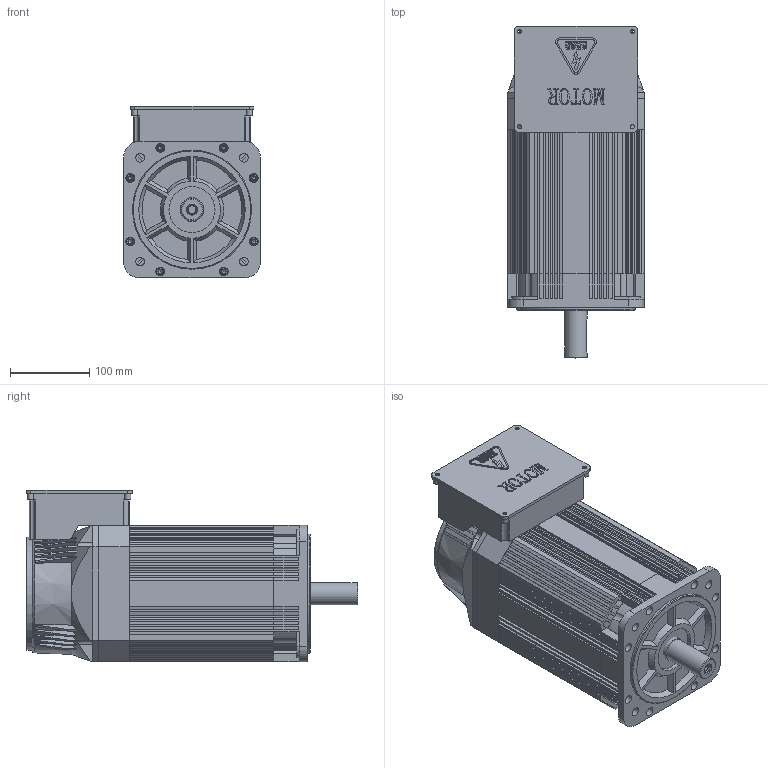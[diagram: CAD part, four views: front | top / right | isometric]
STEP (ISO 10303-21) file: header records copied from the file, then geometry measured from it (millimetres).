
FILE_DESCRIPTION(/* description */ (''),/* implementation_level */ '2;1');
FILE_NAME(/* name */ '172ZJY-4-4-15-A(法兰安装).stp',/* time_stamp */ '2024-11-15T13:15:12+08:00',/* author */ (''),/* organization */ (''),/* preprocessor_version */ 'ST-DEVELOPER v18.1',/* originating_system */ 'SIEMENS PLM Software NX 2000',/* authorisation */ '');
FILE_SCHEMA (('AUTOMOTIVE_DESIGN { 1 0 10303 214 3 1 1 1 }'));
Products named in the file (1): 172ZJY-4-4-15_法兰安装__stp
Bounding box: 172 x 418 x 216.5 mm (x, y, z)
Volume: 8007114.3 mm3; surface area: 833565.2 mm2
Topology: 15 solids, 15 shells, 2287 faces, 6264 edges, 4123 vertices
Faces by surface type: plane 1338, cylinder 654, extrusion 170, cone 108, torus 17
Full cylindrical faces by diameter (mm): 4.5 x4, 5 x8, 5.3 x8, 5.795 x8, 6 x4, 7 x8, 8 x4, 10 x9, 11 x12, 12 x2, 26 x1, 28 x1, 30 x1, 58 x1, 137 x1, 150 x1
Entity records: 76091 total; most frequent: CARTESIAN_POINT 21908, ORIENTED_EDGE 12192, DIRECTION 9275, EDGE_CURVE 6096, VERTEX_POINT 4078, AXIS2_PLACEMENT_3D 3096, VECTOR 3083, LINE 2913
